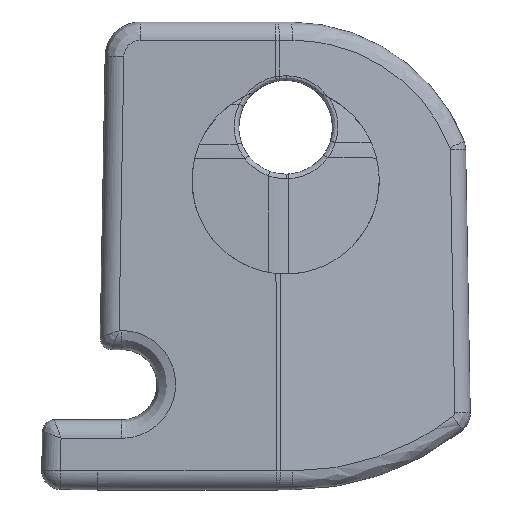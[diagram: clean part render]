
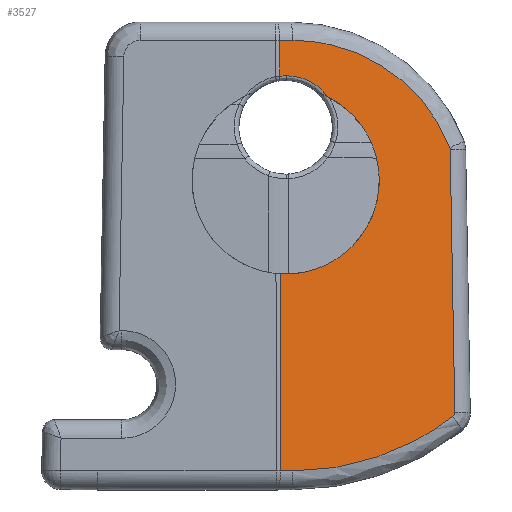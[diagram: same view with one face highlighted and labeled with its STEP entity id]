
A CAD part, front view. The second image highlights one B-rep face of the part: STEP entity #3527.
In plain terms, the highlighted planar face has unit normal (0.174, -0.985, 0.018).
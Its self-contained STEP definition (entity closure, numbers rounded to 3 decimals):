
#434=CARTESIAN_POINT('',(0.035,-2.075,4.474));
#435=CARTESIAN_POINT('',(0.115,-2.06,4.474));
#436=CARTESIAN_POINT('',(0.271,-2.033,4.465));
#437=CARTESIAN_POINT('',(0.482,-1.997,4.432));
#438=CARTESIAN_POINT('',(0.684,-1.962,4.38));
#439=CARTESIAN_POINT('',(0.876,-1.929,4.311));
#440=CARTESIAN_POINT('',(1.059,-1.898,4.225));
#441=CARTESIAN_POINT('',(1.234,-1.869,4.122));
#442=CARTESIAN_POINT('',(1.4,-1.842,4.004));
#443=CARTESIAN_POINT('',(1.553,-1.818,3.871));
#444=CARTESIAN_POINT('',(1.694,-1.795,3.724));
#445=CARTESIAN_POINT('',(1.778,-1.782,3.618));
#446=CARTESIAN_POINT('',(1.818,-1.776,3.563));
#451=CARTESIAN_POINT('',(-0.25,-2.125,
4.456));
#452=CARTESIAN_POINT('',(-0.219,-2.12,
4.46));
#453=CARTESIAN_POINT('',(-0.156,-2.108,
4.467));
#454=CARTESIAN_POINT('',(-0.061,-2.091,
4.473));
#455=CARTESIAN_POINT('',(0.003,-2.08,4.474));
#456=CARTESIAN_POINT('',(0.035,-2.075,4.474));
#461=DIRECTION('',(0.002,-0.017,-1.));
#462=VECTOR('',#461,1.529);
#463=CARTESIAN_POINT('',(-0.252,-2.099,
5.985));
#464=LINE('',#463,#462);
#468=DIRECTION('',(-0.985,-0.174,0.));
#469=VECTOR('',#468,0.575);
#470=CARTESIAN_POINT('',(0.314,-1.999,5.985));
#471=LINE('',#470,#469);
#475=CARTESIAN_POINT('',(7.02,-0.897,1.405));
#476=CARTESIAN_POINT('',(6.916,-0.911,1.672));
#477=CARTESIAN_POINT('',(6.677,-0.944,2.19));
#478=CARTESIAN_POINT('',(6.227,-1.01,2.922));
#479=CARTESIAN_POINT('',(5.693,-1.093,3.597));
#480=CARTESIAN_POINT('',(5.08,-1.19,4.204));
#481=CARTESIAN_POINT('',(4.399,-1.301,4.735));
#482=CARTESIAN_POINT('',(3.657,-1.423,5.181));
#483=CARTESIAN_POINT('',(2.866,-1.557,5.536));
#484=CARTESIAN_POINT('',(2.037,-1.698,5.794));
#485=CARTESIAN_POINT('',(1.181,-1.846,5.95));
#486=CARTESIAN_POINT('',(0.605,-1.947,5.985));
#487=CARTESIAN_POINT('',(0.314,-1.999,5.985));
#492=CARTESIAN_POINT('',(7.034,-0.896,1.336));
#493=CARTESIAN_POINT('',(7.034,-0.896,1.344));
#494=CARTESIAN_POINT('',(7.033,-0.896,1.359));
#495=CARTESIAN_POINT('',(7.028,-0.896,1.383));
#496=CARTESIAN_POINT('',(7.023,-0.897,1.398));
#497=CARTESIAN_POINT('',(7.02,-0.897,1.405));
#502=DIRECTION('',(-0.017,0.015,1.));
#503=VECTOR('',#502,11.262);
#504=CARTESIAN_POINT('',(7.23,-1.061,-9.923));
#505=LINE('',#504,#503);
#509=CARTESIAN_POINT('',(7.153,-1.078,-10.085));
#510=CARTESIAN_POINT('',(7.162,-1.076,-10.077));
#511=CARTESIAN_POINT('',(7.181,-1.072,-10.06));
#512=CARTESIAN_POINT('',(7.203,-1.068,-10.03));
#513=CARTESIAN_POINT('',(7.219,-1.064,-9.996));
#514=CARTESIAN_POINT('',(7.229,-1.062,-9.96));
#515=CARTESIAN_POINT('',(7.231,-1.061,-9.936));
#516=CARTESIAN_POINT('',(7.23,-1.061,-9.923));
#521=CARTESIAN_POINT('',(0.314,-2.325,
-12.415));
#522=CARTESIAN_POINT('',(0.725,-2.252,
-12.415));
#523=CARTESIAN_POINT('',(1.541,-2.108,-12.37));
#524=CARTESIAN_POINT('',(2.755,-1.89,-12.169));
#525=CARTESIAN_POINT('',(3.938,-1.676,-11.836));
#526=CARTESIAN_POINT('',(5.076,-1.467,-11.377));
#527=CARTESIAN_POINT('',(6.158,-1.266,-10.796));
#528=CARTESIAN_POINT('',(6.829,-1.139,-10.335));
#529=CARTESIAN_POINT('',(7.153,-1.078,-10.085));
#534=DIRECTION('',(0.985,0.174,0.));
#535=VECTOR('',#534,0.547);
#536=CARTESIAN_POINT('',(-0.224,-2.42,
-12.415));
#537=LINE('',#536,#535);
#541=DIRECTION('',(-0.002,0.017,1.));
#542=VECTOR('',#541,8.424);
#543=CARTESIAN_POINT('',(-0.224,-2.42,
-12.415));
#544=LINE('',#543,#542);
#851=CARTESIAN_POINT('',(1.818,-1.776,3.563));
#852=CARTESIAN_POINT('',(1.974,-1.75,3.484));
#853=CARTESIAN_POINT('',(2.272,-1.701,3.306));
#854=CARTESIAN_POINT('',(2.682,-1.634,2.983));
#855=CARTESIAN_POINT('',(3.046,-1.577,2.61));
#856=CARTESIAN_POINT('',(3.357,-1.529,2.195));
#857=CARTESIAN_POINT('',(3.612,-1.492,1.744));
#858=CARTESIAN_POINT('',(3.807,-1.466,1.264));
#859=CARTESIAN_POINT('',(3.938,-1.452,0.765));
#860=CARTESIAN_POINT('',(4.003,-1.45,0.252));
#861=CARTESIAN_POINT('',(4.002,-1.459,
-0.264));
#862=CARTESIAN_POINT('',(3.935,-1.48,
-0.777));
#863=CARTESIAN_POINT('',(3.802,-1.512,-1.277));
#864=CARTESIAN_POINT('',(3.606,-1.555,-1.757));
#865=CARTESIAN_POINT('',(3.348,-1.609,-2.209));
#866=CARTESIAN_POINT('',(3.034,-1.672,-2.624));
#867=CARTESIAN_POINT('',(2.667,-1.743,-2.996));
#868=CARTESIAN_POINT('',(2.254,-1.821,-3.318));
#869=CARTESIAN_POINT('',(1.801,-1.906,-3.584));
#870=CARTESIAN_POINT('',(1.317,-1.995,-3.789));
#871=CARTESIAN_POINT('',(0.81,-2.087,
-3.929));
#872=CARTESIAN_POINT('',(0.287,-2.18,
-4.001));
#873=CARTESIAN_POINT('',(-0.062,-2.242,
-4.003));
#874=CARTESIAN_POINT('',(-0.237,-2.273,
-3.993));
#1328=CARTESIAN_POINT('',(-0.237,-2.273,
-3.993));
#2965=VERTEX_POINT('',#1328);
#3012=VERTEX_POINT('',#475);
#3013=VERTEX_POINT('',#487);
#3016=VERTEX_POINT('',#521);
#3017=VERTEX_POINT('',#529);
#3028=CARTESIAN_POINT('',(-0.224,-2.42,
-12.415));
#3029=VERTEX_POINT('',#3028);
#3091=CARTESIAN_POINT('',(7.23,-1.061,
-9.923));
#3092=CARTESIAN_POINT('',(7.034,-0.896,
1.336));
#3093=VERTEX_POINT('',#3091);
#3094=VERTEX_POINT('',#3092);
#3105=CARTESIAN_POINT('',(-0.252,-2.099,
5.985));
#3106=VERTEX_POINT('',#3105);
#3111=VERTEX_POINT('',#434);
#3112=VERTEX_POINT('',#446);
#3113=VERTEX_POINT('',#451);
#3497=CARTESIAN_POINT('',(8.821,-0.485,
6.771));
#3498=DIRECTION('',(-0.174,0.985,-0.017));
#3499=DIRECTION('',(-0.985,-0.174,0.));
#3500=AXIS2_PLACEMENT_3D('',#3497,#3498,#3499);
#3501=PLANE('',#3500);
#3503=ORIENTED_EDGE('',*,*,#3502,.F.);
#3504=ORIENTED_EDGE('',*,*,#3487,.F.);
#3506=ORIENTED_EDGE('',*,*,#3505,.F.);
#3508=ORIENTED_EDGE('',*,*,#3507,.F.);
#3510=ORIENTED_EDGE('',*,*,#3509,.F.);
#3512=ORIENTED_EDGE('',*,*,#3511,.F.);
#3514=ORIENTED_EDGE('',*,*,#3513,.F.);
#3516=ORIENTED_EDGE('',*,*,#3515,.F.);
#3518=ORIENTED_EDGE('',*,*,#3517,.F.);
#3520=ORIENTED_EDGE('',*,*,#3519,.F.);
#3522=ORIENTED_EDGE('',*,*,#3521,.T.);
#3524=ORIENTED_EDGE('',*,*,#3523,.F.);
#3525=EDGE_LOOP('',(#3503,#3504,#3506,#3508,#3510,#3512,#3514,#3516,#3518,#3520,
#3522,#3524));
#3526=FACE_OUTER_BOUND('',#3525,.F.);
#447=B_SPLINE_CURVE_WITH_KNOTS('',3,(#434,#435,#436,#437,#438,#439,#440,#441,
#442,#443,#444,#445,#446),.UNSPECIFIED.,.F.,.F.,(4,1,1,1,1,1,1,1,1,1,4),(0.,
0.1,0.2,0.3,0.4,0.5,0.6,0.7,0.8,0.9,1.),.UNSPECIFIED.);
#457=B_SPLINE_CURVE_WITH_KNOTS('',3,(#451,#452,#453,#454,#455,#456),
.UNSPECIFIED.,.F.,.F.,(4,1,1,4),(0.,0.333,0.667,1.),
.UNSPECIFIED.);
#488=B_SPLINE_CURVE_WITH_KNOTS('',3,(#475,#476,#477,#478,#479,#480,#481,#482,
#483,#484,#485,#486,#487),.UNSPECIFIED.,.F.,.F.,(4,1,1,1,1,1,1,1,1,1,4),(0.,
0.1,0.2,0.3,0.4,0.5,0.6,0.7,0.8,0.9,1.),.UNSPECIFIED.);
#498=B_SPLINE_CURVE_WITH_KNOTS('',3,(#492,#493,#494,#495,#496,#497),
.UNSPECIFIED.,.F.,.F.,(4,1,1,4),(0.,0.333,0.667,1.),
.UNSPECIFIED.);
#517=B_SPLINE_CURVE_WITH_KNOTS('',3,(#509,#510,#511,#512,#513,#514,#515,#516),
.UNSPECIFIED.,.F.,.F.,(4,1,1,1,1,4),(0.,0.2,0.4,0.6,0.8,1.),
.UNSPECIFIED.);
#530=B_SPLINE_CURVE_WITH_KNOTS('',3,(#521,#522,#523,#524,#525,#526,#527,#528,
#529),.UNSPECIFIED.,.F.,.F.,(4,1,1,1,1,1,4),(0.,0.167,
0.333,0.5,0.667,0.833,1.),
.UNSPECIFIED.);
#875=B_SPLINE_CURVE_WITH_KNOTS('',3,(#851,#852,#853,#854,#855,#856,#857,#858,
#859,#860,#861,#862,#863,#864,#865,#866,#867,#868,#869,#870,#871,#872,#873,
#874),.UNSPECIFIED.,.F.,.F.,(4,1,1,1,1,1,1,1,1,1,1,1,1,1,1,1,1,1,1,1,1,4),(0.,
0.048,0.095,0.143,0.19,
0.238,0.286,0.333,0.381,
0.429,0.476,0.524,0.571,
0.619,0.667,0.714,0.762,
0.81,0.857,0.905,0.952,1.),
.UNSPECIFIED.);
#3487=EDGE_CURVE('',#3113,#3111,#457,.T.);
#3502=EDGE_CURVE('',#3111,#3112,#447,.T.);
#3505=EDGE_CURVE('',#3106,#3113,#464,.T.);
#3507=EDGE_CURVE('',#3013,#3106,#471,.T.);
#3509=EDGE_CURVE('',#3012,#3013,#488,.T.);
#3511=EDGE_CURVE('',#3094,#3012,#498,.T.);
#3513=EDGE_CURVE('',#3093,#3094,#505,.T.);
#3515=EDGE_CURVE('',#3017,#3093,#517,.T.);
#3517=EDGE_CURVE('',#3016,#3017,#530,.T.);
#3519=EDGE_CURVE('',#3029,#3016,#537,.T.);
#3521=EDGE_CURVE('',#3029,#2965,#544,.T.);
#3523=EDGE_CURVE('',#3112,#2965,#875,.T.);
#3527=ADVANCED_FACE('',(#3526),#3501,.F.);
